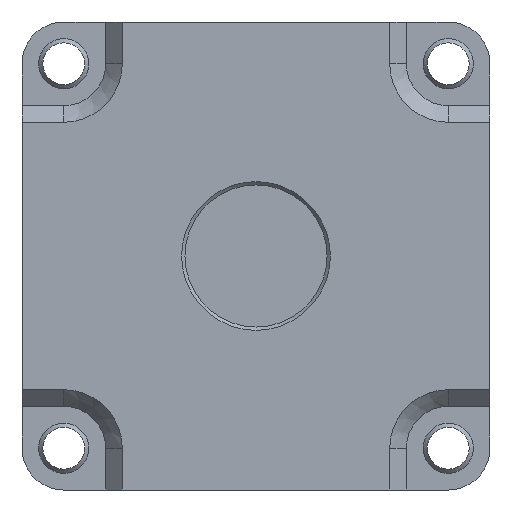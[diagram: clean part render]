
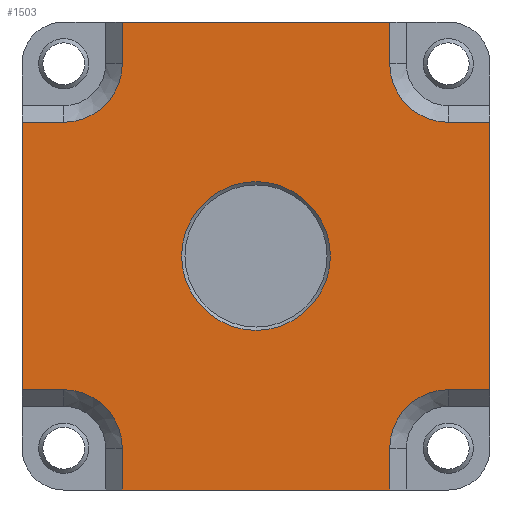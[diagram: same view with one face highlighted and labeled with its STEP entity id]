
A CAD part, front view. The second image highlights one B-rep face of the part: STEP entity #1503.
In plain terms, the highlighted planar face has unit normal (0, -1, 0).
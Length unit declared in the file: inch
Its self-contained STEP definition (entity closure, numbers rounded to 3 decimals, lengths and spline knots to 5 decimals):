
#52=LINE('',#2309,#188);
#59=LINE('',#2326,#195);
#69=LINE('',#2360,#205);
#76=LINE('',#2373,#212);
#89=LINE('',#2411,#225);
#92=LINE('',#2419,#228);
#96=LINE('',#2433,#232);
#97=LINE('',#2434,#233);
#98=LINE('',#2435,#234);
#99=LINE('',#2437,#235);
#100=LINE('',#2439,#236);
#101=LINE('',#2442,#237);
#188=VECTOR('',#1847,0.09843);
#195=VECTOR('',#1866,0.09843);
#205=VECTOR('',#1896,0.09843);
#212=VECTOR('',#1911,0.09843);
#225=VECTOR('',#1946,0.09843);
#228=VECTOR('',#1955,0.09843);
#232=VECTOR('',#1971,0.62992);
#233=VECTOR('',#1972,0.62992);
#234=VECTOR('',#1973,0.62992);
#235=VECTOR('',#1974,0.62992);
#236=VECTOR('',#1975,0.09843);
#237=VECTOR('',#1978,0.09843);
#333=FACE_BOUND('',#471,.T.);
#382=FACE_OUTER_BOUND('',#470,.T.);
#470=EDGE_LOOP('',(#1117,#1118,#1119,#1120,#1121,#1122,#1123,#1124,#1125,
#1126,#1127,#1128,#1129,#1130,#1131,#1132));
#471=EDGE_LOOP('',(#1133));
#546=CIRCLE('',#1620,0.1378);
#552=CIRCLE('',#1632,0.1378);
#558=CIRCLE('',#1650,0.1378);
#561=CIRCLE('',#1656,0.1752);
#562=CIRCLE('',#1658,0.1378);
#636=VERTEX_POINT('',#2302);
#639=VERTEX_POINT('',#2307);
#640=VERTEX_POINT('',#2311);
#643=VERTEX_POINT('',#2324);
#652=VERTEX_POINT('',#2347);
#655=VERTEX_POINT('',#2352);
#657=VERTEX_POINT('',#2358);
#659=VERTEX_POINT('',#2371);
#672=VERTEX_POINT('',#2408);
#673=VERTEX_POINT('',#2410);
#674=VERTEX_POINT('',#2414);
#675=VERTEX_POINT('',#2418);
#678=VERTEX_POINT('',#2428);
#679=VERTEX_POINT('',#2432);
#680=VERTEX_POINT('',#2436);
#681=VERTEX_POINT('',#2438);
#682=VERTEX_POINT('',#2440);
#790=EDGE_CURVE('',#636,#639,#52,.T.);
#793=EDGE_CURVE('',#640,#636,#546,.T.);
#799=EDGE_CURVE('',#643,#640,#59,.T.);
#812=EDGE_CURVE('',#652,#655,#552,.T.);
#815=EDGE_CURVE('',#655,#657,#69,.T.);
#822=EDGE_CURVE('',#659,#652,#76,.T.);
#840=EDGE_CURVE('',#673,#672,#89,.T.);
#842=EDGE_CURVE('',#674,#673,#558,.T.);
#844=EDGE_CURVE('',#675,#674,#92,.T.);
#850=EDGE_CURVE('',#678,#678,#561,.T.);
#851=EDGE_CURVE('',#679,#675,#96,.T.);
#852=EDGE_CURVE('',#672,#659,#97,.T.);
#853=EDGE_CURVE('',#657,#643,#98,.T.);
#854=EDGE_CURVE('',#639,#680,#99,.T.);
#855=EDGE_CURVE('',#680,#681,#100,.T.);
#856=EDGE_CURVE('',#681,#682,#562,.T.);
#857=EDGE_CURVE('',#682,#679,#101,.T.);
#1117=ORIENTED_EDGE('',*,*,#851,.T.);
#1118=ORIENTED_EDGE('',*,*,#844,.T.);
#1119=ORIENTED_EDGE('',*,*,#842,.T.);
#1120=ORIENTED_EDGE('',*,*,#840,.T.);
#1121=ORIENTED_EDGE('',*,*,#852,.T.);
#1122=ORIENTED_EDGE('',*,*,#822,.T.);
#1123=ORIENTED_EDGE('',*,*,#812,.T.);
#1124=ORIENTED_EDGE('',*,*,#815,.T.);
#1125=ORIENTED_EDGE('',*,*,#853,.T.);
#1126=ORIENTED_EDGE('',*,*,#799,.T.);
#1127=ORIENTED_EDGE('',*,*,#793,.T.);
#1128=ORIENTED_EDGE('',*,*,#790,.T.);
#1129=ORIENTED_EDGE('',*,*,#854,.T.);
#1130=ORIENTED_EDGE('',*,*,#855,.T.);
#1131=ORIENTED_EDGE('',*,*,#856,.T.);
#1132=ORIENTED_EDGE('',*,*,#857,.T.);
#1133=ORIENTED_EDGE('',*,*,#850,.T.);
#1361=PLANE('',#1657);
#1503=ADVANCED_FACE('',(#382,#333),#1361,.F.);
#1620=AXIS2_PLACEMENT_3D('',#2315,#1853,#1854);
#1632=AXIS2_PLACEMENT_3D('',#2354,#1890,#1891);
#1650=AXIS2_PLACEMENT_3D('',#2415,#1950,#1951);
#1656=AXIS2_PLACEMENT_3D('',#2430,#1967,#1968);
#1657=AXIS2_PLACEMENT_3D('',#2431,#1969,#1970);
#1658=AXIS2_PLACEMENT_3D('',#2441,#1976,#1977);
#1847=DIRECTION('',(0.,0.,-1.));
#1853=DIRECTION('center_axis',(0.,1.,0.));
#1854=DIRECTION('ref_axis',(-1.,0.,0.));
#1866=DIRECTION('',(1.,0.,0.));
#1890=DIRECTION('center_axis',(0.,1.,0.));
#1891=DIRECTION('ref_axis',(-1.,0.,0.));
#1896=DIRECTION('',(-1.,0.,0.));
#1911=DIRECTION('',(0.,0.,-1.));
#1946=DIRECTION('',(0.,0.,1.));
#1950=DIRECTION('center_axis',(0.,1.,0.));
#1951=DIRECTION('ref_axis',(-1.,0.,0.));
#1955=DIRECTION('',(-1.,0.,0.));
#1967=DIRECTION('center_axis',(0.,1.,0.));
#1968=DIRECTION('ref_axis',(-1.,0.,0.));
#1969=DIRECTION('center_axis',(0.,1.,0.));
#1970=DIRECTION('ref_axis',(0.,0.,1.));
#1971=DIRECTION('',(0.,0.,1.));
#1972=DIRECTION('',(-1.,0.,0.));
#1973=DIRECTION('',(0.,0.,-1.));
#1974=DIRECTION('',(1.,0.,0.));
#1975=DIRECTION('',(0.,0.,1.));
#1976=DIRECTION('center_axis',(0.,1.,0.));
#1977=DIRECTION('ref_axis',(-1.,0.,0.));
#1978=DIRECTION('',(1.,0.,0.));
#2302=CARTESIAN_POINT('',(-2.93556,-0.4126,0.23346));
#2307=CARTESIAN_POINT('',(-2.93556,-0.4126,0.13504));
#2309=CARTESIAN_POINT('',(-2.93556,-0.4126,0.23346));
#2311=CARTESIAN_POINT('',(-3.07335,-0.4126,0.37126));
#2315=CARTESIAN_POINT('Origin',(-3.07335,-0.4126,0.23346));
#2324=CARTESIAN_POINT('',(-3.17178,-0.4126,0.37126));
#2326=CARTESIAN_POINT('',(-3.17178,-0.4126,0.37126));
#2347=CARTESIAN_POINT('',(-2.93556,-0.4126,1.13897));
#2352=CARTESIAN_POINT('',(-3.07335,-0.4126,1.00118));
#2354=CARTESIAN_POINT('Origin',(-3.07335,-0.4126,1.13897));
#2358=CARTESIAN_POINT('',(-3.17178,-0.4126,1.00118));
#2360=CARTESIAN_POINT('',(-3.07335,-0.4126,1.00118));
#2371=CARTESIAN_POINT('',(-2.93556,-0.4126,1.2374));
#2373=CARTESIAN_POINT('',(-2.93556,-0.4126,1.2374));
#2408=CARTESIAN_POINT('',(-2.30563,-0.4126,1.2374));
#2410=CARTESIAN_POINT('',(-2.30563,-0.4126,1.13897));
#2411=CARTESIAN_POINT('',(-2.30563,-0.4126,1.13897));
#2414=CARTESIAN_POINT('',(-2.16784,-0.4126,1.00118));
#2415=CARTESIAN_POINT('Origin',(-2.16784,-0.4126,1.13897));
#2418=CARTESIAN_POINT('',(-2.06941,-0.4126,1.00118));
#2419=CARTESIAN_POINT('',(-2.06941,-0.4126,1.00118));
#2428=CARTESIAN_POINT('',(-2.79579,-0.4126,0.68622));
#2430=CARTESIAN_POINT('Origin',(-2.62059,-0.4126,0.68622));
#2431=CARTESIAN_POINT('Origin',(-2.06941,-0.4126,0.13504));
#2432=CARTESIAN_POINT('',(-2.06941,-0.4126,0.37126));
#2433=CARTESIAN_POINT('',(-2.06941,-0.4126,0.37126));
#2434=CARTESIAN_POINT('',(-2.30563,-0.4126,1.2374));
#2435=CARTESIAN_POINT('',(-3.17178,-0.4126,1.00118));
#2436=CARTESIAN_POINT('',(-2.30563,-0.4126,0.13504));
#2437=CARTESIAN_POINT('',(-2.93556,-0.4126,0.13504));
#2438=CARTESIAN_POINT('',(-2.30563,-0.4126,0.23346));
#2439=CARTESIAN_POINT('',(-2.30563,-0.4126,0.13504));
#2440=CARTESIAN_POINT('',(-2.16784,-0.4126,0.37126));
#2441=CARTESIAN_POINT('Origin',(-2.16784,-0.4126,0.23346));
#2442=CARTESIAN_POINT('',(-2.16784,-0.4126,0.37126));
